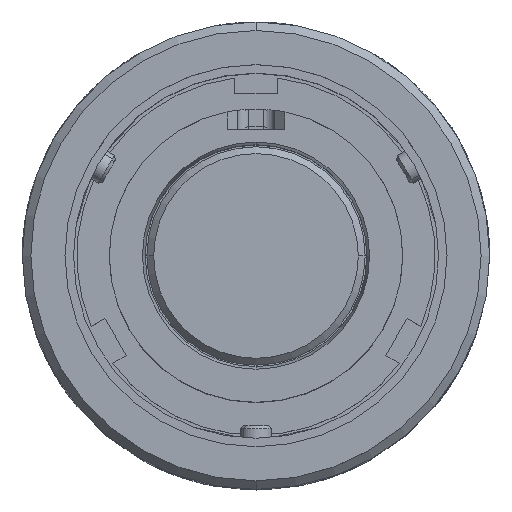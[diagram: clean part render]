
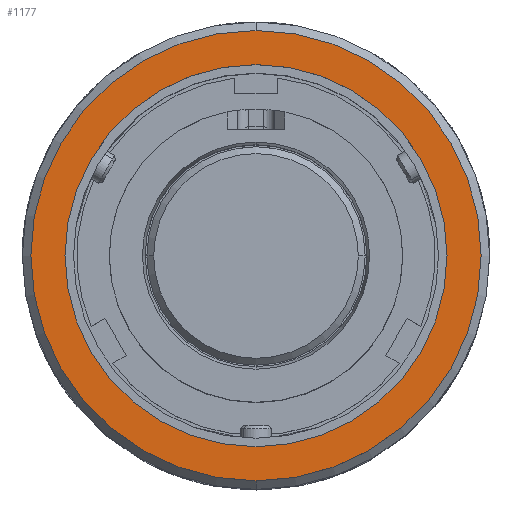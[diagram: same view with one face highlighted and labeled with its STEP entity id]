
A CAD part, top view. The second image highlights one B-rep face of the part: STEP entity #1177.
In plain terms, the highlighted planar face has unit normal (0, 0, 1).
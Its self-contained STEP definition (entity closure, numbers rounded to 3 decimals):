
#143 = DIRECTION ( 'NONE',  ( 0., -1., 0. ) ) ;
#544 = DIRECTION ( 'NONE',  ( 0., 0., -1. ) ) ;
#630 = CARTESIAN_POINT ( 'NONE',  ( 0., 0., -0.813 ) ) ;
#850 = VERTEX_POINT ( 'NONE', #5510 ) ;
#1177 = ADVANCED_FACE ( 'NONE', ( #8606, #6517 ), #9339, .T. ) ;
#1197 = DIRECTION ( 'NONE',  ( 0., 0., -1. ) ) ;
#1507 = EDGE_CURVE ( 'NONE', #8566, #850, #5127, .T. ) ;
#1581 = AXIS2_PLACEMENT_3D ( 'NONE', #5653, #4880, #143 ) ;
#1647 = EDGE_LOOP ( 'NONE', ( #4321, #7374 ) ) ;
#1667 = CARTESIAN_POINT ( 'NONE',  ( 0., -14.224, -0.813 ) ) ;
#1881 = CIRCLE ( 'NONE', #3858, 16.764 ) ;
#2304 = DIRECTION ( 'NONE',  ( 0., 0., -1. ) ) ;
#2624 = CARTESIAN_POINT ( 'NONE',  ( 0., 0., -0.813 ) ) ;
#2631 = CARTESIAN_POINT ( 'NONE',  ( 0., 16.764, -0.813 ) ) ;
#2669 = AXIS2_PLACEMENT_3D ( 'NONE', #4813, #1197, #4953 ) ;
#2910 = ORIENTED_EDGE ( 'NONE', *, *, #1507, .F. ) ;
#3858 = AXIS2_PLACEMENT_3D ( 'NONE', #5251, #2304, #5789 ) ;
#4171 = DIRECTION ( 'NONE',  ( 0., 0., -1. ) ) ;
#4321 = ORIENTED_EDGE ( 'NONE', *, *, #8599, .T. ) ;
#4600 = EDGE_CURVE ( 'NONE', #9014, #8319, #6358, .T. ) ;
#4634 = CARTESIAN_POINT ( 'NONE',  ( 0., 14.224, -0.813 ) ) ;
#4754 = ORIENTED_EDGE ( 'NONE', *, *, #5953, .F. ) ;
#4813 = CARTESIAN_POINT ( 'NONE',  ( 0., 0., -0.813 ) ) ;
#4880 = DIRECTION ( 'NONE',  ( 0., 0., 1. ) ) ;
#4953 = DIRECTION ( 'NONE',  ( 0., 1., 0. ) ) ;
#5127 = CIRCLE ( 'NONE', #8990, 16.764 ) ;
#5251 = CARTESIAN_POINT ( 'NONE',  ( 0., 0., -0.813 ) ) ;
#5510 = CARTESIAN_POINT ( 'NONE',  ( 0., -16.764, -0.813 ) ) ;
#5576 = DIRECTION ( 'NONE',  ( 0., 1., 0. ) ) ;
#5653 = CARTESIAN_POINT ( 'NONE',  ( 0., 16.764, -0.813 ) ) ;
#5789 = DIRECTION ( 'NONE',  ( 0., 1., 0. ) ) ;
#5904 = CIRCLE ( 'NONE', #2669, 14.224 ) ;
#5953 = EDGE_CURVE ( 'NONE', #850, #8566, #1881, .T. ) ;
#6281 = AXIS2_PLACEMENT_3D ( 'NONE', #2624, #4171, #5576 ) ;
#6358 = CIRCLE ( 'NONE', #6281, 14.224 ) ;
#6517 = FACE_OUTER_BOUND ( 'NONE', #7354, .T. ) ;
#6518 = DIRECTION ( 'NONE',  ( 0., 1., 0. ) ) ;
#7354 = EDGE_LOOP ( 'NONE', ( #2910, #4754 ) ) ;
#7374 = ORIENTED_EDGE ( 'NONE', *, *, #4600, .T. ) ;
#8319 = VERTEX_POINT ( 'NONE', #4634 ) ;
#8566 = VERTEX_POINT ( 'NONE', #2631 ) ;
#8599 = EDGE_CURVE ( 'NONE', #8319, #9014, #5904, .T. ) ;
#8606 = FACE_BOUND ( 'NONE', #1647, .T. ) ;
#8990 = AXIS2_PLACEMENT_3D ( 'NONE', #630, #544, #6518 ) ;
#9014 = VERTEX_POINT ( 'NONE', #1667 ) ;
#9339 = PLANE ( 'NONE',  #1581 ) ;
